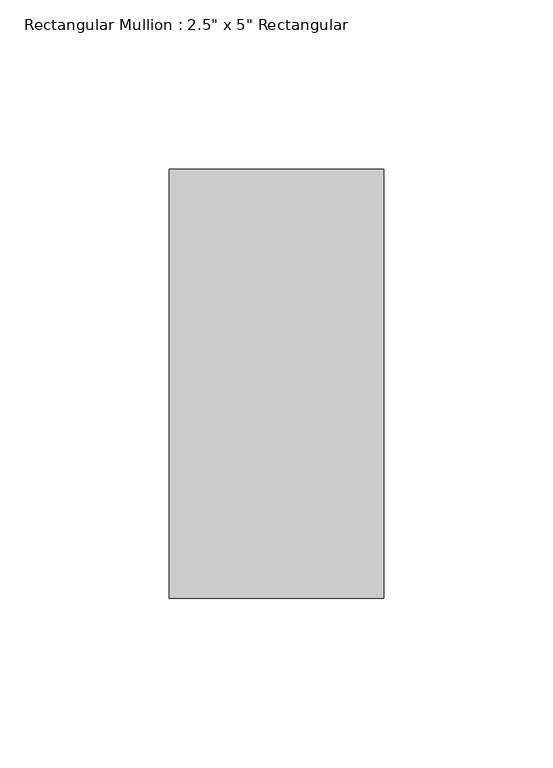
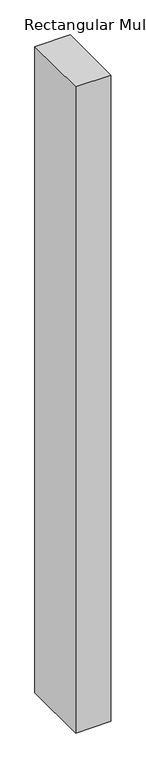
"""IFC4 building model written with IfcOpenShell, lengths in millimetres: member geometry."""

from ifc_helpers import new_model, si_unit, frame, origin, place, context, project, spatial, polyline, outline, extrude, source, transform, mapped, element, save


def member_e8e44c72(model_context):
    return source(origin(), model_context, "Body", "SweptSolid", [
        extrude(outline(polyline([(31.75, 63.5), (31.75, -63.5), (-31.75, -63.5), (-31.75, 63.5), (31.75, 63.5)])), frame((0.0, 0.0, -1231.2), z_axis=(0.0, 0.0, 1.0), x_axis=(1.0, 0.0, 0.0)), (0.0, 0.0, 1.0), 1231.2),
    ])


if __name__ == "__main__":
    model = new_model("IFC4")
    model_context = context("Model", 3, world=origin())
    ifc_project = project(units=[si_unit("LENGTHUNIT", "METRE", prefix="MILLI")], contexts=[model_context])
    site = spatial("IfcSite", under=ifc_project)
    building = spatial("IfcBuilding", under=site)
    placement = place(None, origin())
    member_shape = member_e8e44c72(model_context)
    element("IfcMember", 1, ObjectType="Rectangular Mullion : 2.5\" x 5\" Rectangular", at=placement, inside=building, context=model_context, shape_type="MappedRepresentation", body=[
        mapped(member_shape, transform((0.0, 0.0, 0.0), x_axis=(1.0, 0.0, 0.0), y_axis=(0.0, 1.0, 0.0), z_axis=(0.0, 0.0, 1.0))),
    ])
    save(model, "model.ifc")
